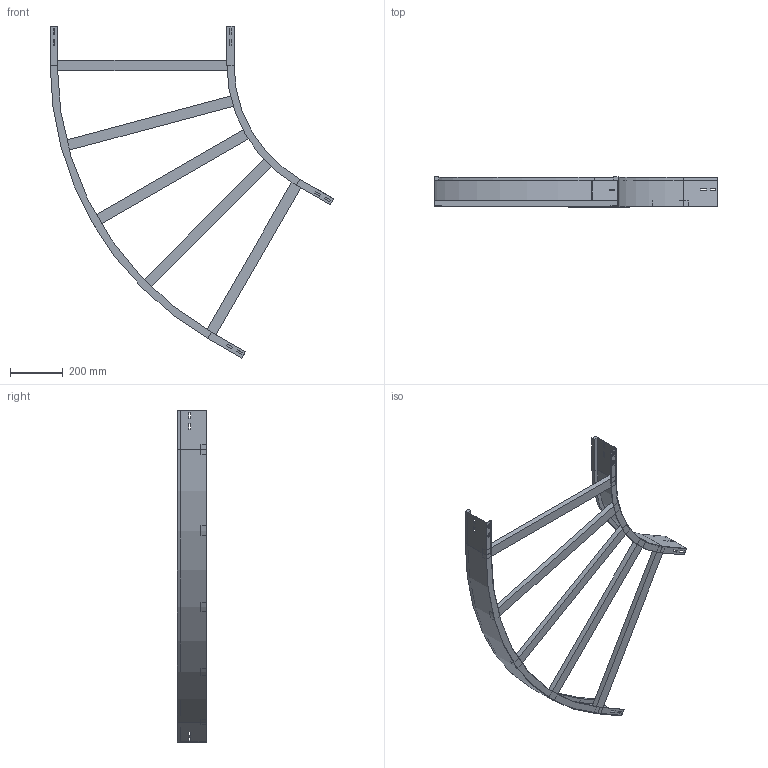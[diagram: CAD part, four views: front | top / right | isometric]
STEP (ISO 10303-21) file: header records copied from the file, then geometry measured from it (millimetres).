
FILE_DESCRIPTION (( 'STEP AP214' ), '1' );
FILE_NAME ('13B5J700.step', '2025-02-21T15:19:05', ( '' ), ( '' ), 'SwSTEP 2.0', 'SolidWorks 2023', '' );
FILE_SCHEMA (( 'AUTOMOTIVE_DESIGN' ));
Length unit declared in the file: millimetre
Products named in the file (4): A2_LONGH.ESTERNO 60°_H112.5_R500+700; A2_LONGH.INTERNO 60°_H112.5_R500; 13B5J700; TRAVERSINO_700
Assembly tree (7 placements, depth 2):
  13B5J700
    A2_LONGH.INTERNO 60°_H112.5_R500
    A2_LONGH.ESTERNO 60°_H112.5_R500+700
    TRAVERSINO_700  x5
Bounding box: 1079.9 x 112.5 x 1264.23 mm (x, y, z)
Volume: 3925442.1 mm3; surface area: 1168229.3 mm2
Topology: 7 solids, 7 shells, 146 faces, 364 edges, 232 vertices
Faces by surface type: plane 138, cylinder 8
Entity records: 3837 total; most frequent: CARTESIAN_POINT 648, ORIENTED_EDGE 632, DIRECTION 596, EDGE_CURVE 316, LINE 300, VECTOR 300, VERTEX_POINT 200, EDGE_LOOP 154
